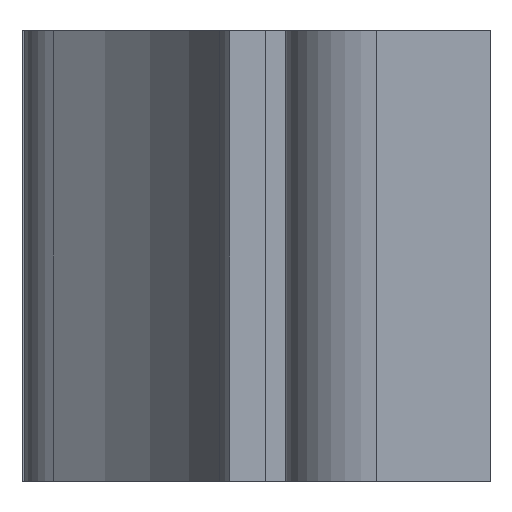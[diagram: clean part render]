
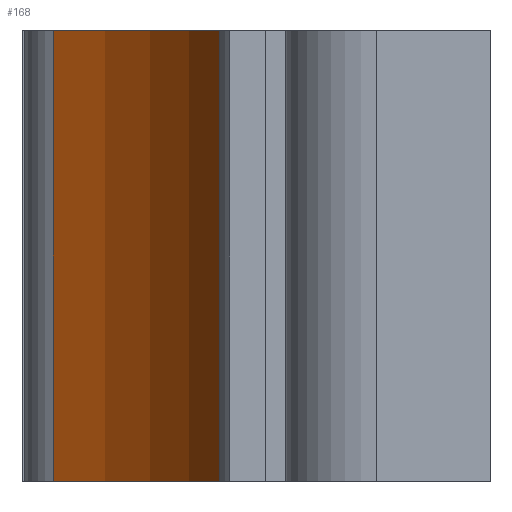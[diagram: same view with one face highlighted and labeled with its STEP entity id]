
A CAD part, left-side view. The second image highlights one B-rep face of the part: STEP entity #168.
In plain terms, the highlighted cylindrical face has radius 25.4 mm (diameter 50.8 mm), a partial arc.
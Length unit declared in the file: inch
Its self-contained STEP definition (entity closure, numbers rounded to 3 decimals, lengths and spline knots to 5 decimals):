
#7 = CIRCLE ( 'NONE', #100, 1. ) ;
#38 = ORIENTED_EDGE ( 'NONE', *, *, #494, .T. ) ;
#48 = DIRECTION ( 'NONE',  ( 0., 0., -1. ) ) ;
#53 = ORIENTED_EDGE ( 'NONE', *, *, #150, .F. ) ;
#66 = LINE ( 'NONE', #485, #89 ) ;
#89 = VECTOR ( 'NONE', #377, 39.37008 ) ;
#93 = VERTEX_POINT ( 'NONE', #108 ) ;
#99 = ORIENTED_EDGE ( 'NONE', *, *, #325, .F. ) ;
#100 = AXIS2_PLACEMENT_3D ( 'NONE', #503, #353, #396 ) ;
#108 = CARTESIAN_POINT ( 'NONE',  ( -1.06271, 0.59933, 0. ) ) ;
#123 = CARTESIAN_POINT ( 'NONE',  ( -0.63503, 0.9687, -1. ) ) ;
#124 = VERTEX_POINT ( 'NONE', #123 ) ;
#150 = EDGE_CURVE ( 'NONE', #124, #282, #66, .T. ) ;
#168 = ADVANCED_FACE ( 'NONE', ( #443 ), #676, .F. ) ;
#218 = EDGE_CURVE ( 'NONE', #324, #93, #391, .T. ) ;
#282 = VERTEX_POINT ( 'NONE', #471 ) ;
#294 = CARTESIAN_POINT ( 'NONE',  ( -1.47587, 1.51, -1. ) ) ;
#322 = CIRCLE ( 'NONE', #488, 1. ) ;
#324 = VERTEX_POINT ( 'NONE', #636 ) ;
#325 = EDGE_CURVE ( 'NONE', #282, #93, #7, .T. ) ;
#353 = DIRECTION ( 'NONE',  ( 0., 0., -1. ) ) ;
#377 = DIRECTION ( 'NONE',  ( 0., 0., 1. ) ) ;
#391 = LINE ( 'NONE', #562, #647 ) ;
#396 = DIRECTION ( 'NONE',  ( -1., 0., 0. ) ) ;
#426 = CARTESIAN_POINT ( 'NONE',  ( -1.47587, 1.51, -1. ) ) ;
#443 = FACE_OUTER_BOUND ( 'NONE', #579, .T. ) ;
#456 = DIRECTION ( 'NONE',  ( 1., 0., 0. ) ) ;
#471 = CARTESIAN_POINT ( 'NONE',  ( -0.63503, 0.9687, 0. ) ) ;
#485 = CARTESIAN_POINT ( 'NONE',  ( -0.63503, 0.9687, -1. ) ) ;
#488 = AXIS2_PLACEMENT_3D ( 'NONE', #426, #48, #651 ) ;
#494 = EDGE_CURVE ( 'NONE', #124, #324, #322, .T. ) ;
#503 = CARTESIAN_POINT ( 'NONE',  ( -1.47587, 1.51, 0. ) ) ;
#560 = AXIS2_PLACEMENT_3D ( 'NONE', #294, #627, #456 ) ;
#562 = CARTESIAN_POINT ( 'NONE',  ( -1.06271, 0.59933, -1. ) ) ;
#579 = EDGE_LOOP ( 'NONE', ( #99, #53, #38, #699 ) ) ;
#627 = DIRECTION ( 'NONE',  ( 0., 0., 1. ) ) ;
#636 = CARTESIAN_POINT ( 'NONE',  ( -1.06271, 0.59933, -1. ) ) ;
#647 = VECTOR ( 'NONE', #671, 39.37008 ) ;
#651 = DIRECTION ( 'NONE',  ( -1., 0., 0. ) ) ;
#671 = DIRECTION ( 'NONE',  ( 0., 0., 1. ) ) ;
#676 = CYLINDRICAL_SURFACE ( 'NONE', #560, 1. ) ;
#699 = ORIENTED_EDGE ( 'NONE', *, *, #218, .T. ) ;
